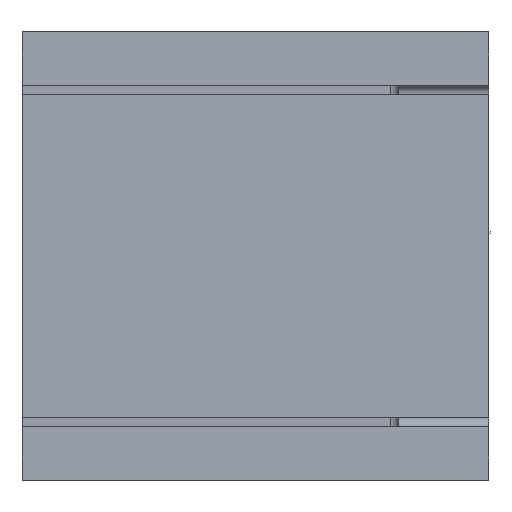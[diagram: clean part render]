
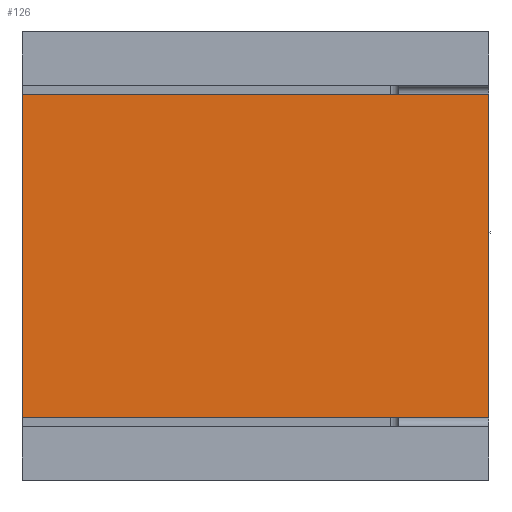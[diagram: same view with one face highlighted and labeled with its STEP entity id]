
A CAD part, left-side view. The second image highlights one B-rep face of the part: STEP entity #126.
In plain terms, the highlighted planar face has unit normal (-0.999, -0.035, 0).
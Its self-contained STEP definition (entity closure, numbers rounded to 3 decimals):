
#126 = ADVANCED_FACE( '', ( #256 ), #257, .F. );
#256 = FACE_OUTER_BOUND( '', #387, .T. );
#257 = PLANE( '', #388 );
#387 = EDGE_LOOP( '', ( #707, #708, #709, #710 ) );
#388 = AXIS2_PLACEMENT_3D( '', #711, #712, #713 );
#707 = ORIENTED_EDGE( '', *, *, #869, .F. );
#708 = ORIENTED_EDGE( '', *, *, #908, .T. );
#709 = ORIENTED_EDGE( '', *, *, #882, .F. );
#710 = ORIENTED_EDGE( '', *, *, #903, .F. );
#711 = CARTESIAN_POINT( '', ( -6., 0., 12.5 ) );
#712 = DIRECTION( '', ( 0.999, 0.035, 0. ) );
#713 = DIRECTION( '', ( -0.035, 0.999, 0. ) );
#869 = EDGE_CURVE( '', #1064, #1065, #1066, .T. );
#882 = EDGE_CURVE( '', #1083, #1084, #1085, .T. );
#903 = EDGE_CURVE( '', #1065, #1083, #1111, .T. );
#908 = EDGE_CURVE( '', #1064, #1084, #1117, .T. );
#1064 = VERTEX_POINT( '', #1332 );
#1065 = VERTEX_POINT( '', #1333 );
#1066 = LINE( '', #1334, #1335 );
#1083 = VERTEX_POINT( '', #1361 );
#1084 = VERTEX_POINT( '', #1362 );
#1085 = LINE( '', #1363, #1364 );
#1111 = LINE( '', #1402, #1403 );
#1117 = LINE( '', #1410, #1411 );
#1332 = CARTESIAN_POINT( '', ( -6., 0., 9. ) );
#1333 = CARTESIAN_POINT( '', ( -5.092, -26., 9. ) );
#1334 = CARTESIAN_POINT( '', ( -6., 0., 9. ) );
#1335 = VECTOR( '', #1522, 1000. );
#1361 = CARTESIAN_POINT( '', ( -5.092, -26., -9. ) );
#1362 = CARTESIAN_POINT( '', ( -6., 0., -9. ) );
#1363 = CARTESIAN_POINT( '', ( -6., 0., -9. ) );
#1364 = VECTOR( '', #1532, 1000. );
#1402 = CARTESIAN_POINT( '', ( -5.092, -26., 12.5 ) );
#1403 = VECTOR( '', #1548, 1000. );
#1410 = CARTESIAN_POINT( '', ( -6., 0., 12.5 ) );
#1411 = VECTOR( '', #1553, 1000. );
#1522 = DIRECTION( '', ( 0.035, -0.999, 0. ) );
#1532 = DIRECTION( '', ( -0.035, 0.999, 0. ) );
#1548 = DIRECTION( '', ( 0., 0., -1. ) );
#1553 = DIRECTION( '', ( 0., 0., -1. ) );
